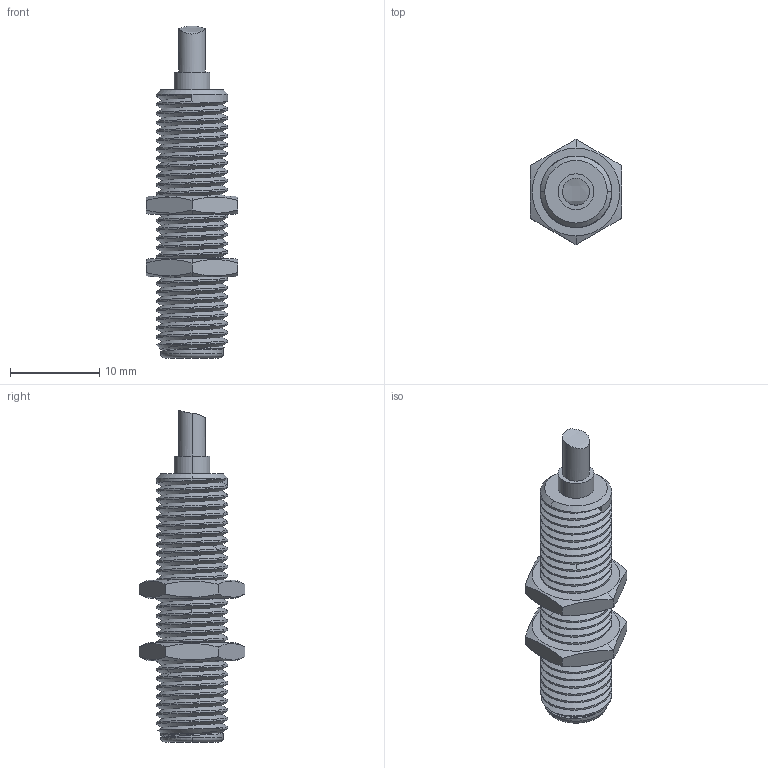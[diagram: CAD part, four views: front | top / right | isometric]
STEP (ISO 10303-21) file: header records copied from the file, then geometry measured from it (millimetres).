
FILE_DESCRIPTION((''),'2;1');
FILE_NAME('M8_QP_L30_ASM','2019-07-16T',('Administrator'),(''),'PRO/ENGINEER BY PARAMETRIC TECHNOLOGY CORPORATION, 2012130','PRO/ENGINEER BY PARAMETRIC TECHNOLOGY CORPORATION, 2012130','');
FILE_SCHEMA(('AUTOMOTIVE_DESIGN { 1 0 10303 214 1 1 1 1 }'));
Length unit declared in the file: millimetre
Products named in the file (3): M8_QP_L30; M8_LM; M8_QP_L30_ASM
Assembly tree (3 placements, depth 2):
  M8_QP_L30_ASM
    M8_QP_L30
    M8_LM  x2
Bounding box: 10.22 x 11.8 x 37.15 mm (x, y, z)
Volume: 1541.6 mm3; surface area: 1819.9 mm2
Topology: 3 solids, 3 shells, 129 faces, 342 edges, 221 vertices
Faces by surface type: cylinder 70, plane 23, bspline 22, cone 11, torus 2, extrusion 1
Entity records: 9379 total; most frequent: CARTESIAN_POINT 6760, ORIENTED_EDGE 584, DIRECTION 348, EDGE_CURVE 292, VERTEX_POINT 189, B_SPLINE_CURVE_WITH_KNOTS 165, AXIS2_PLACEMENT_3D 124, EDGE_LOOP 113
